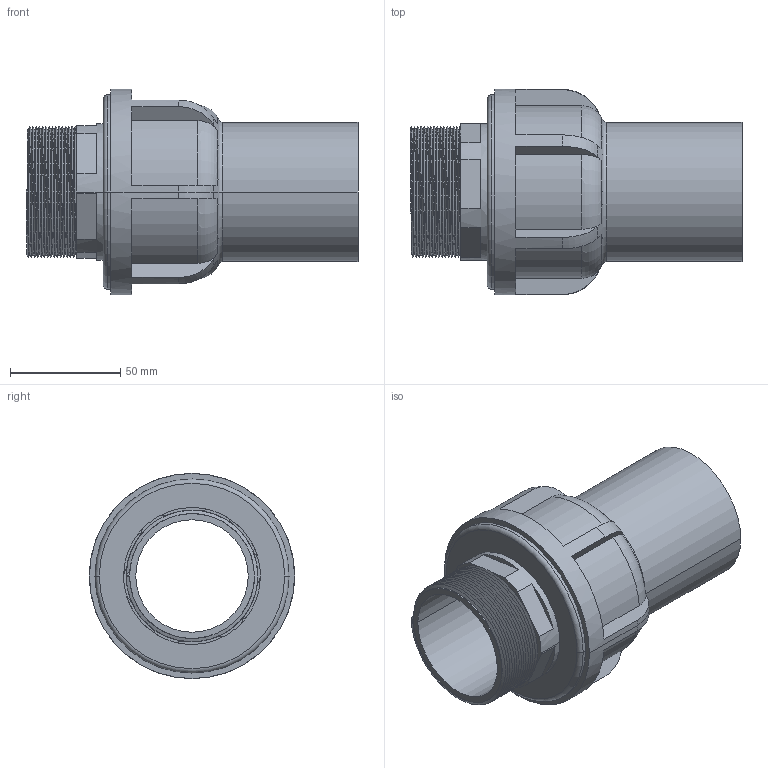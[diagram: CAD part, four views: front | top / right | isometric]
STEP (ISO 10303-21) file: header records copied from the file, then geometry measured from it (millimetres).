
FILE_DESCRIPTION (( 'STEP AP214' ), '1' );
FILE_NAME ('AX67136 - 63x2inch - male.STEP', '2021-06-14T14:15:41', ( '' ), ( '' ), 'SwSTEP 2.0', 'SolidWorks 2019', '' );
FILE_SCHEMA (( 'AUTOMOTIVE_DESIGN' ));
Length unit declared in the file: millimetre
Products named in the file (1): AX67136 - 63x2inch - male
Bounding box: 150.47 x 93 x 93 mm (x, y, z)
Volume: 250865.1 mm3; surface area: 73179.1 mm2
Topology: 1 solids, 1 shells, 117 faces, 318 edges, 204 vertices
Faces by surface type: cylinder 50, plane 43, torus 17, cone 4, bspline 3
Entity records: 7127 total; most frequent: CARTESIAN_POINT 3314, ORIENTED_EDGE 632, DIRECTION 527, EDGE_CURVE 316, AXIS2_PLACEMENT_3D 204, VERTEX_POINT 204, EDGE_LOOP 122, LINE 119
